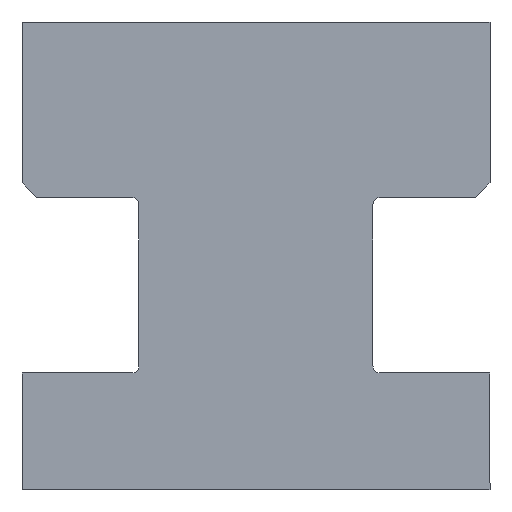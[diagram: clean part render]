
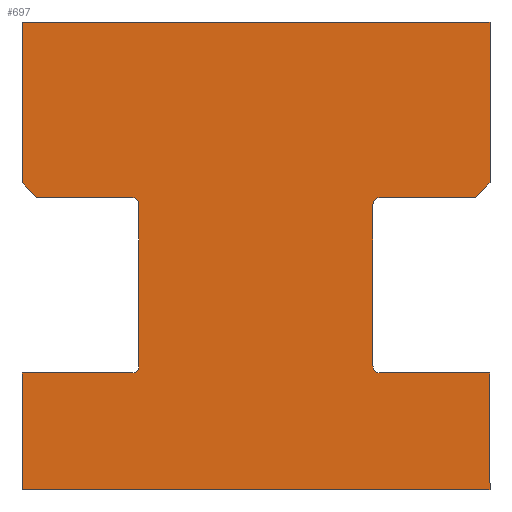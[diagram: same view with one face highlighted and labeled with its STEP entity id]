
A CAD part, front view. The second image highlights one B-rep face of the part: STEP entity #697.
In plain terms, the highlighted planar face has unit normal (0, -1, 0).
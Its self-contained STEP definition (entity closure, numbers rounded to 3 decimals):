
#62 = VERTEX_POINT ( 'NONE', #3061 ) ;
#125 = VECTOR ( 'NONE', #5555, 1000. ) ;
#177 = CARTESIAN_POINT ( 'NONE',  ( 8., -63., 10.5 ) ) ;
#247 = AXIS2_PLACEMENT_3D ( 'NONE', #1567, #2752, #4025 ) ;
#335 = LINE ( 'NONE', #2743, #5381 ) ;
#381 = VERTEX_POINT ( 'NONE', #1855 ) ;
#435 = LINE ( 'NONE', #5264, #2286 ) ;
#469 = DIRECTION ( 'NONE',  ( 0., 0., -1. ) ) ;
#584 = CARTESIAN_POINT ( 'NONE',  ( 4.25, -63., 10. ) ) ;
#590 = LINE ( 'NONE', #1778, #634 ) ;
#617 = VERTEX_POINT ( 'NONE', #2602 ) ;
#621 = CARTESIAN_POINT ( 'NONE',  ( 4., -63., 4.25 ) ) ;
#626 = VECTOR ( 'NONE', #2478, 1000. ) ;
#634 = VECTOR ( 'NONE', #7201, 1000. ) ;
#697 = ADVANCED_FACE ( 'NONE', ( #1610 ), #6371, .F. ) ;
#753 = DIRECTION ( 'NONE',  ( 0., 0., -1. ) ) ;
#780 = ORIENTED_EDGE ( 'NONE', *, *, #5586, .T. ) ;
#877 = EDGE_CURVE ( 'NONE', #5086, #7401, #5757, .T. ) ;
#907 = VECTOR ( 'NONE', #3824, 1000. ) ;
#1024 = CARTESIAN_POINT ( 'NONE',  ( -8., -63., 16. ) ) ;
#1088 = LINE ( 'NONE', #3484, #5994 ) ;
#1194 = ORIENTED_EDGE ( 'NONE', *, *, #4323, .F. ) ;
#1233 = DIRECTION ( 'NONE',  ( 0., 0., -1. ) ) ;
#1246 = DIRECTION ( 'NONE',  ( 1., 0., 0. ) ) ;
#1303 = CARTESIAN_POINT ( 'NONE',  ( 8., -63., 10. ) ) ;
#1357 = CARTESIAN_POINT ( 'NONE',  ( 4.25, -63., 4.25 ) ) ;
#1385 = VECTOR ( 'NONE', #1233, 1000. ) ;
#1429 = EDGE_CURVE ( 'NONE', #2968, #3450, #4695, .T. ) ;
#1430 = CARTESIAN_POINT ( 'NONE',  ( -4.25, -63., 4.25 ) ) ;
#1490 = CARTESIAN_POINT ( 'NONE',  ( 4., -63., 9.75 ) ) ;
#1567 = CARTESIAN_POINT ( 'NONE',  ( -4.25, -63., 9.75 ) ) ;
#1610 = FACE_OUTER_BOUND ( 'NONE', #2757, .T. ) ;
#1733 = EDGE_CURVE ( 'NONE', #6263, #5136, #4250, .T. ) ;
#1778 = CARTESIAN_POINT ( 'NONE',  ( -8., -63., 16. ) ) ;
#1855 = CARTESIAN_POINT ( 'NONE',  ( -8., -63., 10.5 ) ) ;
#1909 = CARTESIAN_POINT ( 'NONE',  ( 7.5, -63., 10. ) ) ;
#1953 = EDGE_CURVE ( 'NONE', #617, #6613, #3599, .T. ) ;
#2010 = VERTEX_POINT ( 'NONE', #5066 ) ;
#2044 = ORIENTED_EDGE ( 'NONE', *, *, #2656, .T. ) ;
#2053 = ORIENTED_EDGE ( 'NONE', *, *, #4081, .T. ) ;
#2228 = DIRECTION ( 'NONE',  ( -1., 0., 0. ) ) ;
#2264 = CIRCLE ( 'NONE', #4132, 0.25 ) ;
#2286 = VECTOR ( 'NONE', #4677, 1000. ) ;
#2321 = EDGE_CURVE ( 'NONE', #7401, #3915, #335, .T. ) ;
#2371 = VERTEX_POINT ( 'NONE', #6871 ) ;
#2478 = DIRECTION ( 'NONE',  ( 0., 0., 1. ) ) ;
#2535 = CIRCLE ( 'NONE', #7405, 0.25 ) ;
#2559 = ORIENTED_EDGE ( 'NONE', *, *, #5382, .T. ) ;
#2602 = CARTESIAN_POINT ( 'NONE',  ( -8., -63., 0. ) ) ;
#2607 = DIRECTION ( 'NONE',  ( 0., 1., 0. ) ) ;
#2656 = EDGE_CURVE ( 'NONE', #6598, #6263, #3602, .T. ) ;
#2743 = CARTESIAN_POINT ( 'NONE',  ( -4., -63., 4.25 ) ) ;
#2752 = DIRECTION ( 'NONE',  ( 0., 1., 0. ) ) ;
#2757 = EDGE_LOOP ( 'NONE', ( #4217, #6749, #4028, #7527, #2053, #7706, #6472, #6567, #6736, #7357, #2933, #3455, #4290, #1194, #2559, #780, #2044, #4563 ) ) ;
#2810 = CARTESIAN_POINT ( 'NONE',  ( 8., -63., 16. ) ) ;
#2817 = EDGE_CURVE ( 'NONE', #4715, #2968, #1088, .T. ) ;
#2832 = LINE ( 'NONE', #6882, #4901 ) ;
#2933 = ORIENTED_EDGE ( 'NONE', *, *, #5997, .T. ) ;
#2968 = VERTEX_POINT ( 'NONE', #3951 ) ;
#3061 = CARTESIAN_POINT ( 'NONE',  ( -4.25, -63., 4. ) ) ;
#3277 = CARTESIAN_POINT ( 'NONE',  ( 8., -63., 10.5 ) ) ;
#3348 = EDGE_CURVE ( 'NONE', #3915, #62, #2264, .T. ) ;
#3420 = DIRECTION ( 'NONE',  ( 0., 1., 0. ) ) ;
#3428 = LINE ( 'NONE', #2810, #6382 ) ;
#3450 = VERTEX_POINT ( 'NONE', #3277 ) ;
#3455 = ORIENTED_EDGE ( 'NONE', *, *, #5575, .T. ) ;
#3484 = CARTESIAN_POINT ( 'NONE',  ( -8., -63., 16. ) ) ;
#3507 = VECTOR ( 'NONE', #1246, 1000. ) ;
#3599 = LINE ( 'NONE', #6602, #3507 ) ;
#3602 = LINE ( 'NONE', #621, #626 ) ;
#3692 = DIRECTION ( 'NONE',  ( 1., 0., 0. ) ) ;
#3746 = DIRECTION ( 'NONE',  ( 0., 1., 0. ) ) ;
#3824 = DIRECTION ( 'NONE',  ( -1., 0., 0. ) ) ;
#3828 = CARTESIAN_POINT ( 'NONE',  ( -4., -63., 4.25 ) ) ;
#3885 = AXIS2_PLACEMENT_3D ( 'NONE', #1024, #3420, #6526 ) ;
#3915 = VERTEX_POINT ( 'NONE', #3828 ) ;
#3951 = CARTESIAN_POINT ( 'NONE',  ( 8., -63., 16. ) ) ;
#4010 = CARTESIAN_POINT ( 'NONE',  ( -7.5, -63., 10. ) ) ;
#4025 = DIRECTION ( 'NONE',  ( 0., 0., -1. ) ) ;
#4028 = ORIENTED_EDGE ( 'NONE', *, *, #1429, .F. ) ;
#4081 = EDGE_CURVE ( 'NONE', #4715, #381, #590, .T. ) ;
#4102 = DIRECTION ( 'NONE',  ( 1., 0., 0. ) ) ;
#4122 = EDGE_CURVE ( 'NONE', #5136, #6645, #7755, .T. ) ;
#4132 = AXIS2_PLACEMENT_3D ( 'NONE', #1430, #2607, #6102 ) ;
#4173 = CARTESIAN_POINT ( 'NONE',  ( 8., -63., 16. ) ) ;
#4217 = ORIENTED_EDGE ( 'NONE', *, *, #4122, .T. ) ;
#4236 = DIRECTION ( 'NONE',  ( 0., 1., 0. ) ) ;
#4250 = CIRCLE ( 'NONE', #6751, 0.25 ) ;
#4290 = ORIENTED_EDGE ( 'NONE', *, *, #1953, .T. ) ;
#4323 = EDGE_CURVE ( 'NONE', #5565, #6613, #3428, .T. ) ;
#4324 = LINE ( 'NONE', #4363, #907 ) ;
#4357 = DIRECTION ( 'NONE',  ( 1., 0., 0. ) ) ;
#4363 = CARTESIAN_POINT ( 'NONE',  ( -8., -63., 4. ) ) ;
#4563 = ORIENTED_EDGE ( 'NONE', *, *, #1733, .T. ) ;
#4605 = CARTESIAN_POINT ( 'NONE',  ( -4.25, -63., 10. ) ) ;
#4612 = DIRECTION ( 'NONE',  ( 0., 0., -1. ) ) ;
#4619 = EDGE_CURVE ( 'NONE', #6645, #3450, #6242, .T. ) ;
#4677 = DIRECTION ( 'NONE',  ( 0.707, 0., -0.707 ) ) ;
#4695 = LINE ( 'NONE', #4173, #1385 ) ;
#4715 = VERTEX_POINT ( 'NONE', #7582 ) ;
#4780 = VECTOR ( 'NONE', #6117, 1000. ) ;
#4901 = VECTOR ( 'NONE', #2228, 1000. ) ;
#4945 = LINE ( 'NONE', #6185, #6775 ) ;
#5007 = CARTESIAN_POINT ( 'NONE',  ( 8., -63., 4. ) ) ;
#5049 = CARTESIAN_POINT ( 'NONE',  ( -8., -63., 16. ) ) ;
#5066 = CARTESIAN_POINT ( 'NONE',  ( -8., -63., 4. ) ) ;
#5086 = VERTEX_POINT ( 'NONE', #4605 ) ;
#5136 = VERTEX_POINT ( 'NONE', #584 ) ;
#5202 = EDGE_CURVE ( 'NONE', #6079, #5086, #4945, .T. ) ;
#5264 = CARTESIAN_POINT ( 'NONE',  ( -7.5, -63., 10. ) ) ;
#5381 = VECTOR ( 'NONE', #4612, 1000. ) ;
#5382 = EDGE_CURVE ( 'NONE', #5565, #2371, #2832, .T. ) ;
#5555 = DIRECTION ( 'NONE',  ( 0.707, 0., 0.707 ) ) ;
#5565 = VERTEX_POINT ( 'NONE', #5007 ) ;
#5575 = EDGE_CURVE ( 'NONE', #2010, #617, #6713, .T. ) ;
#5586 = EDGE_CURVE ( 'NONE', #2371, #6598, #2535, .T. ) ;
#5757 = CIRCLE ( 'NONE', #247, 0.25 ) ;
#5880 = VECTOR ( 'NONE', #3692, 1000. ) ;
#5994 = VECTOR ( 'NONE', #4102, 1000. ) ;
#5997 = EDGE_CURVE ( 'NONE', #62, #2010, #4324, .T. ) ;
#6079 = VERTEX_POINT ( 'NONE', #4010 ) ;
#6082 = CARTESIAN_POINT ( 'NONE',  ( 4., -63., 4.25 ) ) ;
#6102 = DIRECTION ( 'NONE',  ( 0., 0., 1. ) ) ;
#6117 = DIRECTION ( 'NONE',  ( 0., 0., -1. ) ) ;
#6166 = CARTESIAN_POINT ( 'NONE',  ( 8., -63., 0. ) ) ;
#6185 = CARTESIAN_POINT ( 'NONE',  ( -8., -63., 10. ) ) ;
#6242 = LINE ( 'NONE', #177, #125 ) ;
#6263 = VERTEX_POINT ( 'NONE', #1490 ) ;
#6371 = PLANE ( 'NONE',  #3885 ) ;
#6382 = VECTOR ( 'NONE', #469, 1000. ) ;
#6472 = ORIENTED_EDGE ( 'NONE', *, *, #5202, .T. ) ;
#6526 = DIRECTION ( 'NONE',  ( 0., 0., 1. ) ) ;
#6567 = ORIENTED_EDGE ( 'NONE', *, *, #877, .T. ) ;
#6598 = VERTEX_POINT ( 'NONE', #6082 ) ;
#6602 = CARTESIAN_POINT ( 'NONE',  ( -8., -63., 0. ) ) ;
#6613 = VERTEX_POINT ( 'NONE', #6166 ) ;
#6645 = VERTEX_POINT ( 'NONE', #1909 ) ;
#6661 = CARTESIAN_POINT ( 'NONE',  ( 4.25, -63., 9.75 ) ) ;
#6713 = LINE ( 'NONE', #5049, #4780 ) ;
#6736 = ORIENTED_EDGE ( 'NONE', *, *, #2321, .T. ) ;
#6749 = ORIENTED_EDGE ( 'NONE', *, *, #4619, .T. ) ;
#6751 = AXIS2_PLACEMENT_3D ( 'NONE', #6661, #4236, #753 ) ;
#6755 = DIRECTION ( 'NONE',  ( 0., 0., 1. ) ) ;
#6775 = VECTOR ( 'NONE', #4357, 1000. ) ;
#6858 = EDGE_CURVE ( 'NONE', #381, #6079, #435, .T. ) ;
#6871 = CARTESIAN_POINT ( 'NONE',  ( 4.25, -63., 4. ) ) ;
#6882 = CARTESIAN_POINT ( 'NONE',  ( 8., -63., 4. ) ) ;
#7059 = CARTESIAN_POINT ( 'NONE',  ( -4., -63., 9.75 ) ) ;
#7201 = DIRECTION ( 'NONE',  ( 0., 0., -1. ) ) ;
#7357 = ORIENTED_EDGE ( 'NONE', *, *, #3348, .T. ) ;
#7401 = VERTEX_POINT ( 'NONE', #7059 ) ;
#7405 = AXIS2_PLACEMENT_3D ( 'NONE', #1357, #3746, #6755 ) ;
#7527 = ORIENTED_EDGE ( 'NONE', *, *, #2817, .F. ) ;
#7582 = CARTESIAN_POINT ( 'NONE',  ( -8., -63., 16. ) ) ;
#7706 = ORIENTED_EDGE ( 'NONE', *, *, #6858, .T. ) ;
#7755 = LINE ( 'NONE', #1303, #5880 ) ;
